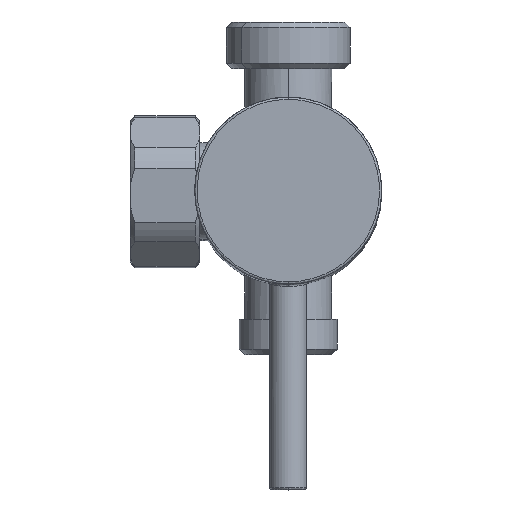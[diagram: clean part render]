
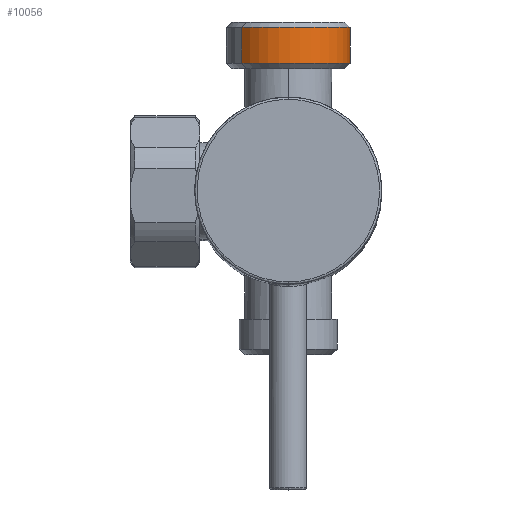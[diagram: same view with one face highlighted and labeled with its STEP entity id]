
A CAD part, top view. The second image highlights one B-rep face of the part: STEP entity #10056.
In plain terms, the highlighted cylindrical face has radius 13.22 mm (diameter 26.44 mm), a partial arc.
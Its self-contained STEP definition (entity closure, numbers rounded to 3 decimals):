
#277 = CARTESIAN_POINT ( 'NONE',  ( -1.235, 46.351, -8.732 ) ) ;
#459 = LINE ( 'NONE', #11256, #5244 ) ;
#548 = DIRECTION ( 'NONE',  ( 0., 1., 0. ) ) ;
#678 = CARTESIAN_POINT ( 'NONE',  ( -11.161, 38.671, 0. ) ) ;
#773 = EDGE_CURVE ( 'NONE', #4767, #9512, #5962, .T. ) ;
#1141 = EDGE_CURVE ( 'NONE', #2192, #9512, #459, .T. ) ;
#1157 = VECTOR ( 'NONE', #548, 1000. ) ;
#1364 = CARTESIAN_POINT ( 'NONE',  ( -21.086, 37.511, 8.732 ) ) ;
#1465 = DIRECTION ( 'NONE',  ( -0.751, 0., 0.661 ) ) ;
#1892 = CARTESIAN_POINT ( 'NONE',  ( -21.086, 38.671, 8.732 ) ) ;
#2192 = VERTEX_POINT ( 'NONE', #10017 ) ;
#2341 = DIRECTION ( 'NONE',  ( 0., 1., 0. ) ) ;
#2349 = CARTESIAN_POINT ( 'NONE',  ( -11.161, 37.511, 0. ) ) ;
#2434 = EDGE_LOOP ( 'NONE', ( #3712, #4278, #6276, #2809 ) ) ;
#2497 = AXIS2_PLACEMENT_3D ( 'NONE', #678, #5075, #10602 ) ;
#2809 = ORIENTED_EDGE ( 'NONE', *, *, #7543, .F. ) ;
#3252 = LINE ( 'NONE', #1364, #1157 ) ;
#3670 = EDGE_CURVE ( 'NONE', #10899, #2192, #5733, .T. ) ;
#3712 = ORIENTED_EDGE ( 'NONE', *, *, #3670, .T. ) ;
#4278 = ORIENTED_EDGE ( 'NONE', *, *, #1141, .T. ) ;
#4767 = VERTEX_POINT ( 'NONE', #6548 ) ;
#4839 = AXIS2_PLACEMENT_3D ( 'NONE', #9732, #2341, #11357 ) ;
#4912 = DIRECTION ( 'NONE',  ( 0., 1., 0. ) ) ;
#5075 = DIRECTION ( 'NONE',  ( 0., 1., 0. ) ) ;
#5244 = VECTOR ( 'NONE', #4912, 1000. ) ;
#5733 = CIRCLE ( 'NONE', #2497, 13.22 ) ;
#5962 = CIRCLE ( 'NONE', #4839, 13.22 ) ;
#5975 = DIRECTION ( 'NONE',  ( 0., 1., 0. ) ) ;
#6276 = ORIENTED_EDGE ( 'NONE', *, *, #773, .F. ) ;
#6548 = CARTESIAN_POINT ( 'NONE',  ( -21.086, 46.351, 8.732 ) ) ;
#7543 = EDGE_CURVE ( 'NONE', #10899, #4767, #3252, .T. ) ;
#8777 = FACE_OUTER_BOUND ( 'NONE', #2434, .T. ) ;
#9243 = AXIS2_PLACEMENT_3D ( 'NONE', #2349, #5975, #1465 ) ;
#9512 = VERTEX_POINT ( 'NONE', #277 ) ;
#9732 = CARTESIAN_POINT ( 'NONE',  ( -11.161, 46.351, 0. ) ) ;
#10017 = CARTESIAN_POINT ( 'NONE',  ( -1.235, 38.671, -8.732 ) ) ;
#10056 = ADVANCED_FACE ( 'NONE', ( #8777 ), #10445, .T. ) ;
#10445 = CYLINDRICAL_SURFACE ( 'NONE', #9243, 13.22 ) ;
#10602 = DIRECTION ( 'NONE',  ( -0.751, 0., 0.661 ) ) ;
#10899 = VERTEX_POINT ( 'NONE', #1892 ) ;
#11256 = CARTESIAN_POINT ( 'NONE',  ( -1.235, 37.511, -8.732 ) ) ;
#11357 = DIRECTION ( 'NONE',  ( -0.661, 0., -0.751 ) ) ;
